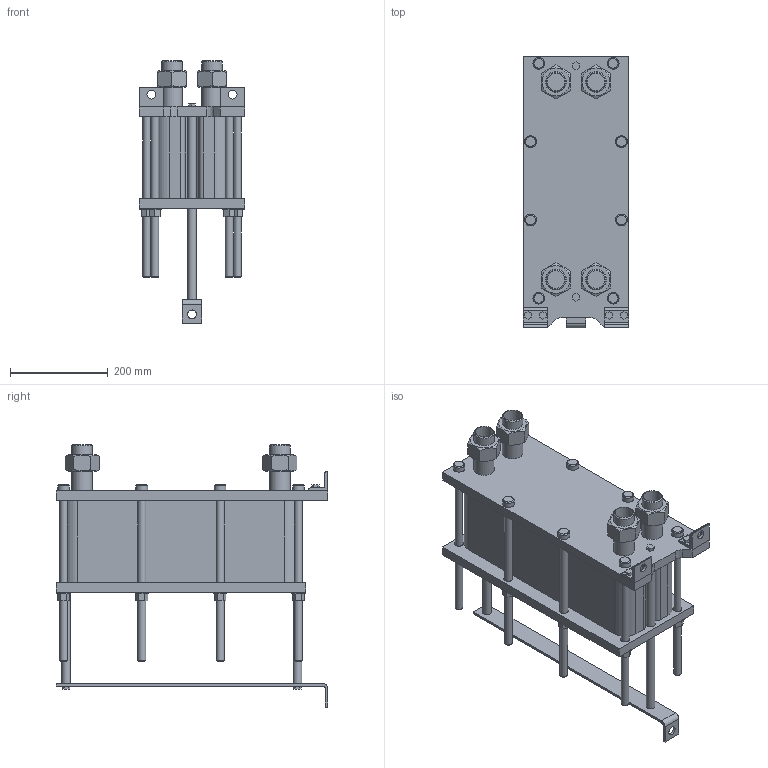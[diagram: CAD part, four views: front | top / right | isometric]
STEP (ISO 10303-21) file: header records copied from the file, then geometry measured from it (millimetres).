
FILE_DESCRIPTION(/* description */ (''),/* implementation_level */ '2;1');
FILE_NAME(/* name */ 'C:\Users\zhuro\Desktop\ENCO\TO\ЭН-004\ЭН-0,5-004-54-1.stp',/* time_stamp */ '2022-06-06T10:47:28+03:00',/* author */ ('zhuro'),/* organization */ (''),/* preprocessor_version */ 'ST-DEVELOPER v18.1',/* originating_system */ 'Autodesk Inventor 2022',/* authorisation */ '');
FILE_SCHEMA (('AUTOMOTIVE_DESIGN { 1 0 10303 214 3 1 1 }'));
Length unit declared in the file: millimetre
Products named in the file (1): ЭН-0,5-004-54-1
Bounding box: 216 x 555 x 536.2 mm (x, y, z)
Volume: 18147401.6 mm3; surface area: 1321401.2 mm2
Topology: 40 solids, 40 shells, 403 faces, 865 edges, 574 vertices
Faces by surface type: plane 272, cylinder 103, cone 28
Full cylindrical faces by diameter (mm): 10 x4, 16 x16, 18 x29, 20 x2, 24 x8, 28 x8, 36.3 x5, 42.3 x9
Entity records: 11137 total; most frequent: CARTESIAN_POINT 1939, DIRECTION 1879, ORIENTED_EDGE 1730, EDGE_CURVE 865, AXIS2_PLACEMENT_3D 658, VERTEX_POINT 574, LINE 563, VECTOR 563
